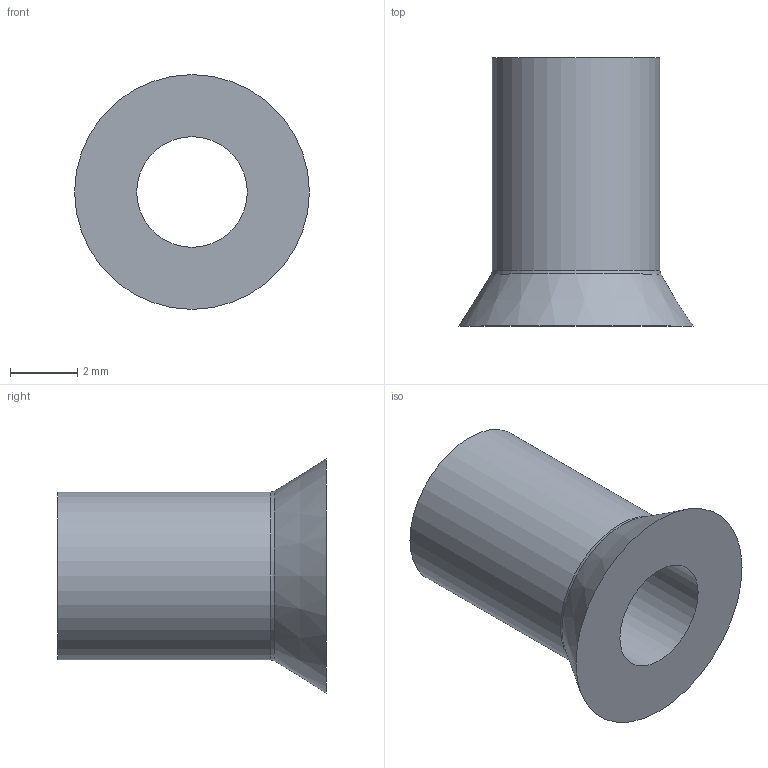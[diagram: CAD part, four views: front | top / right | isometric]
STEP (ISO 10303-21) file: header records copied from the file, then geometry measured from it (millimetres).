
FILE_DESCRIPTION((''),'2;1');
FILE_NAME('S:\Technik\Konstruktion\CAD-Daten\Kundenmodelle\112.006.004_Kd.stp','2010-10-05T09:58:44',('JGarcia-Martinez'),(''),'Autodesk Inventor 2009','Autodesk Inventor 2009','');
FILE_SCHEMA(('AUTOMOTIVE_DESIGN { 1 0 10303 214 1 1 1 1 }'));
Length unit declared in the file: millimetre
Products named in the file (1): 112.006
Bounding box: 7 x 8 x 7 mm (x, y, z)
Volume: 102.9 mm3; surface area: 260 mm2
Topology: 1 solids, 1 shells, 6 faces, 10 edges, 6 vertices
Faces by surface type: cylinder 2, plane 2, cone 1, bspline 1
Full cylindrical faces by diameter (mm): 3.3 x1, 5 x1
Entity records: 194 total; most frequent: CARTESIAN_POINT 63, DIRECTION 24, AXIS2_PLACEMENT_3D 12, ORIENTED_EDGE 12, EDGE_LOOP 12, VERTEX_POINT 6, CIRCLE 6, EDGE_CURVE 6
